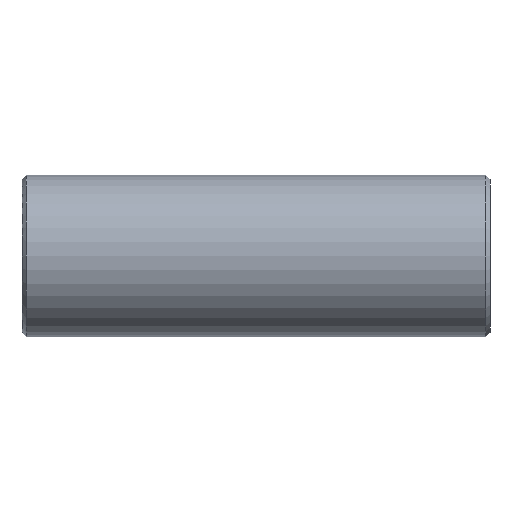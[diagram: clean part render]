
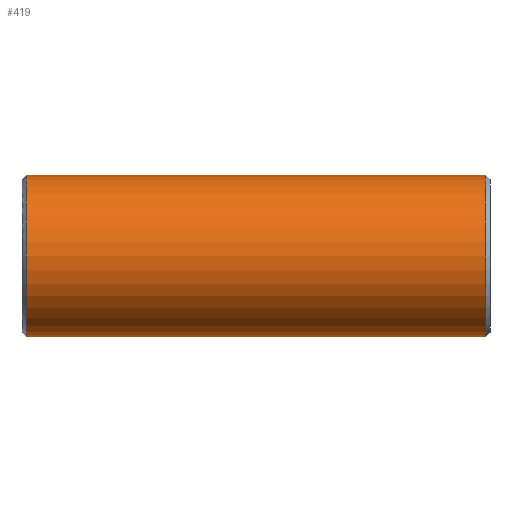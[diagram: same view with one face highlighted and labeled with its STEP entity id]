
A CAD part, front view. The second image highlights one B-rep face of the part: STEP entity #419.
In plain terms, the highlighted cylindrical face has radius 20 mm (diameter 40 mm), a partial arc.
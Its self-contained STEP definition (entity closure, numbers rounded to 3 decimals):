
#231=CARTESIAN_POINT('Vertex',(1.,0.,-20.)) ;
#238=CARTESIAN_POINT('Vertex',(1.,0.,20.)) ;
#267=CARTESIAN_POINT('Axis2P3D Location',(1.,0.,0.)) ;
#271=CARTESIAN_POINT('Vertex',(1.,-20.,0.)) ;
#274=CARTESIAN_POINT('Axis2P3D Location',(1.,0.,0.)) ;
#359=CARTESIAN_POINT('Line Origine',(116.,0.,20.)) ;
#363=CARTESIAN_POINT('Vertex',(115.,0.,20.)) ;
#377=CARTESIAN_POINT('Vertex',(115.,0.,-20.)) ;
#380=CARTESIAN_POINT('Line Origine',(116.,0.,-20.)) ;
#394=CARTESIAN_POINT('Axis2P3D Location',(116.,0.,0.)) ;
#399=CARTESIAN_POINT('Axis2P3D Location',(115.,0.,0.)) ;
#403=CARTESIAN_POINT('Vertex',(115.,-20.,0.)) ;
#406=CARTESIAN_POINT('Axis2P3D Location',(115.,0.,0.)) ;
#268=DIRECTION('Axis2P3D Direction',(1.,0.,-0.)) ;
#275=DIRECTION('Axis2P3D Direction',(1.,0.,-0.)) ;
#360=DIRECTION('Vector Direction',(-1.,0.,0.)) ;
#381=DIRECTION('Vector Direction',(-1.,0.,0.)) ;
#395=DIRECTION('Axis2P3D Direction',(-1.,-0.,-0.)) ;
#396=DIRECTION('Axis2P3D XDirection',(0.,0.,-1.)) ;
#400=DIRECTION('Axis2P3D Direction',(-1.,-0.,-0.)) ;
#407=DIRECTION('Axis2P3D Direction',(-1.,-0.,-0.)) ;
#269=AXIS2_PLACEMENT_3D('Circle Axis2P3D',#267,#268,$) ;
#276=AXIS2_PLACEMENT_3D('Circle Axis2P3D',#274,#275,$) ;
#397=AXIS2_PLACEMENT_3D('Cylinder Axis2P3D',#394,#395,#396) ;
#401=AXIS2_PLACEMENT_3D('Circle Axis2P3D',#399,#400,$) ;
#408=AXIS2_PLACEMENT_3D('Circle Axis2P3D',#406,#407,$) ;
#412=ORIENTED_EDGE('',*,*,#384,.T.) ;
#413=ORIENTED_EDGE('',*,*,#405,.F.) ;
#414=ORIENTED_EDGE('',*,*,#410,.F.) ;
#415=ORIENTED_EDGE('',*,*,#365,.T.) ;
#416=ORIENTED_EDGE('',*,*,#278,.T.) ;
#417=ORIENTED_EDGE('',*,*,#273,.T.) ;
#361=VECTOR('Line Direction',#360,1.) ;
#382=VECTOR('Line Direction',#381,1.) ;
#419=ADVANCED_FACE('352-32X116',(#418),#398,.T.) ;
#270=CIRCLE('generated circle',#269,20.) ;
#277=CIRCLE('generated circle',#276,20.) ;
#402=CIRCLE('generated circle',#401,20.) ;
#409=CIRCLE('generated circle',#408,20.) ;
#398=CYLINDRICAL_SURFACE('generated cylinder',#397,20.) ;
#273=EDGE_CURVE('',#272,#232,#270,.T.) ;
#278=EDGE_CURVE('',#239,#272,#277,.T.) ;
#365=EDGE_CURVE('',#364,#239,#362,.T.) ;
#384=EDGE_CURVE('',#232,#378,#383,.F.) ;
#405=EDGE_CURVE('',#404,#378,#402,.F.) ;
#410=EDGE_CURVE('',#364,#404,#409,.F.) ;
#411=EDGE_LOOP('',(#412,#413,#414,#415,#416,#417)) ;
#418=FACE_OUTER_BOUND('',#411,.T.) ;
#362=LINE('Line',#359,#361) ;
#383=LINE('Line',#380,#382) ;
#232=VERTEX_POINT('',#231) ;
#239=VERTEX_POINT('',#238) ;
#272=VERTEX_POINT('',#271) ;
#364=VERTEX_POINT('',#363) ;
#378=VERTEX_POINT('',#377) ;
#404=VERTEX_POINT('',#403) ;
